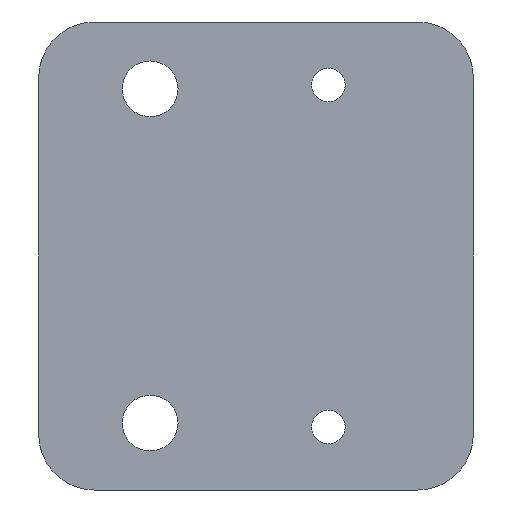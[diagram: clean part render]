
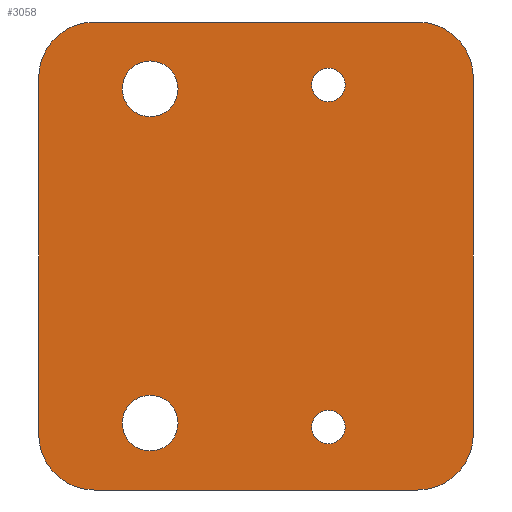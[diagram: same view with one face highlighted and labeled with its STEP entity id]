
A CAD part, front view. The second image highlights one B-rep face of the part: STEP entity #3058.
In plain terms, the highlighted planar face has unit normal (0, -1, 0).
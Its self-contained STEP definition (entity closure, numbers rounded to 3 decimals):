
#653=CARTESIAN_POINT('',(-30.,-8.,-15.));
#654=DIRECTION('',(0.,-1.,0.));
#655=DIRECTION('',(0.,0.,1.));
#656=AXIS2_PLACEMENT_3D('',#653,#654,#655);
#658=CARTESIAN_POINT('',(-30.,-8.,-15.));
#659=DIRECTION('',(0.,-1.,0.));
#660=DIRECTION('',(0.,0.,-1.));
#661=AXIS2_PLACEMENT_3D('',#658,#659,#660);
#663=CARTESIAN_POINT('',(-30.,-8.,15.));
#664=DIRECTION('',(0.,-1.,0.));
#665=DIRECTION('',(0.,0.,1.));
#666=AXIS2_PLACEMENT_3D('',#663,#664,#665);
#668=CARTESIAN_POINT('',(-30.,-8.,15.));
#669=DIRECTION('',(0.,-1.,0.));
#670=DIRECTION('',(0.,0.,-1.));
#671=AXIS2_PLACEMENT_3D('',#668,#669,#670);
#673=CARTESIAN_POINT('',(-14.,-8.,-15.35));
#674=DIRECTION('',(0.,-1.,0.));
#675=DIRECTION('',(0.,0.,1.));
#676=AXIS2_PLACEMENT_3D('',#673,#674,#675);
#678=CARTESIAN_POINT('',(-14.,-8.,-15.35));
#679=DIRECTION('',(0.,-1.,0.));
#680=DIRECTION('',(0.,0.,-1.));
#681=AXIS2_PLACEMENT_3D('',#678,#679,#680);
#683=CARTESIAN_POINT('',(-14.,-8.,15.35));
#684=DIRECTION('',(0.,-1.,0.));
#685=DIRECTION('',(0.,0.,1.));
#686=AXIS2_PLACEMENT_3D('',#683,#684,#685);
#688=CARTESIAN_POINT('',(-14.,-8.,15.35));
#689=DIRECTION('',(0.,-1.,0.));
#690=DIRECTION('',(0.,0.,-1.));
#691=AXIS2_PLACEMENT_3D('',#688,#689,#690);
#693=CARTESIAN_POINT('',(-6.,-8.,-16.));
#694=DIRECTION('',(0.,-1.,0.));
#695=DIRECTION('',(0.,0.,-1.));
#696=AXIS2_PLACEMENT_3D('',#693,#694,#695);
#698=DIRECTION('',(-1.,0.,0.));
#699=VECTOR('',#698,29.);
#700=CARTESIAN_POINT('',(-6.,-8.,-21.));
#701=LINE('',#700,#699);
#702=CARTESIAN_POINT('',(-35.,-8.,-16.));
#703=DIRECTION('',(0.,-1.,0.));
#704=DIRECTION('',(-1.,0.,0.));
#705=AXIS2_PLACEMENT_3D('',#702,#703,#704);
#707=DIRECTION('',(0.,0.,1.));
#708=VECTOR('',#707,32.);
#709=CARTESIAN_POINT('',(-40.,-8.,-16.));
#710=LINE('',#709,#708);
#711=CARTESIAN_POINT('',(-35.,-8.,16.));
#712=DIRECTION('',(0.,-1.,0.));
#713=DIRECTION('',(0.,0.,1.));
#714=AXIS2_PLACEMENT_3D('',#711,#712,#713);
#716=DIRECTION('',(1.,0.,0.));
#717=VECTOR('',#716,29.);
#718=CARTESIAN_POINT('',(-35.,-8.,21.));
#719=LINE('',#718,#717);
#720=CARTESIAN_POINT('',(-6.,-8.,16.));
#721=DIRECTION('',(0.,-1.,0.));
#722=DIRECTION('',(1.,0.,0.));
#723=AXIS2_PLACEMENT_3D('',#720,#721,#722);
#725=DIRECTION('',(0.,0.,-1.));
#726=VECTOR('',#725,32.);
#727=CARTESIAN_POINT('',(-1.,-8.,16.));
#728=LINE('',#727,#726);
#1989=CARTESIAN_POINT('',(-30.,-8.,-12.5));
#1990=CARTESIAN_POINT('',(-30.,-8.,-17.5));
#1991=VERTEX_POINT('',#1989);
#1992=VERTEX_POINT('',#1990);
#1993=CARTESIAN_POINT('',(-30.,-8.,17.5));
#1994=CARTESIAN_POINT('',(-30.,-8.,12.5));
#1995=VERTEX_POINT('',#1993);
#1996=VERTEX_POINT('',#1994);
#1997=CARTESIAN_POINT('',(-6.,-8.,-21.));
#1998=CARTESIAN_POINT('',(-1.,-8.,-16.));
#1999=VERTEX_POINT('',#1997);
#2000=VERTEX_POINT('',#1998);
#2005=CARTESIAN_POINT('',(-40.,-8.,-16.));
#2006=CARTESIAN_POINT('',(-35.,-8.,-21.));
#2007=VERTEX_POINT('',#2005);
#2008=VERTEX_POINT('',#2006);
#2013=CARTESIAN_POINT('',(-35.,-8.,21.));
#2014=CARTESIAN_POINT('',(-40.,-8.,16.));
#2015=VERTEX_POINT('',#2013);
#2016=VERTEX_POINT('',#2014);
#2021=CARTESIAN_POINT('',(-1.,-8.,16.));
#2022=CARTESIAN_POINT('',(-6.,-8.,21.));
#2023=VERTEX_POINT('',#2021);
#2024=VERTEX_POINT('',#2022);
#2029=CARTESIAN_POINT('',(-14.,-8.,-13.85));
#2030=CARTESIAN_POINT('',(-14.,-8.,-16.85));
#2031=VERTEX_POINT('',#2029);
#2032=VERTEX_POINT('',#2030);
#2033=CARTESIAN_POINT('',(-14.,-8.,16.85));
#2034=CARTESIAN_POINT('',(-14.,-8.,13.85));
#2035=VERTEX_POINT('',#2033);
#2036=VERTEX_POINT('',#2034);
#3013=CARTESIAN_POINT('',(0.,-8.,0.));
#3014=DIRECTION('',(0.,1.,0.));
#3015=DIRECTION('',(0.,0.,1.));
#3016=AXIS2_PLACEMENT_3D('',#3013,#3014,#3015);
#3017=PLANE('',#3016);
#3019=ORIENTED_EDGE('',*,*,#3018,.F.);
#3021=ORIENTED_EDGE('',*,*,#3020,.T.);
#3023=ORIENTED_EDGE('',*,*,#3022,.F.);
#3025=ORIENTED_EDGE('',*,*,#3024,.T.);
#3027=ORIENTED_EDGE('',*,*,#3026,.F.);
#3029=ORIENTED_EDGE('',*,*,#3028,.T.);
#3031=ORIENTED_EDGE('',*,*,#3030,.F.);
#3033=ORIENTED_EDGE('',*,*,#3032,.T.);
#3034=EDGE_LOOP('',(#3019,#3021,#3023,#3025,#3027,#3029,#3031,#3033));
#3035=FACE_OUTER_BOUND('',#3034,.F.);
#3037=ORIENTED_EDGE('',*,*,#3036,.T.);
#3039=ORIENTED_EDGE('',*,*,#3038,.T.);
#3040=EDGE_LOOP('',(#3037,#3039));
#3041=FACE_BOUND('',#3040,.F.);
#3043=ORIENTED_EDGE('',*,*,#3042,.T.);
#3045=ORIENTED_EDGE('',*,*,#3044,.T.);
#3046=EDGE_LOOP('',(#3043,#3045));
#3047=FACE_BOUND('',#3046,.F.);
#3049=ORIENTED_EDGE('',*,*,#3048,.T.);
#3051=ORIENTED_EDGE('',*,*,#3050,.T.);
#3052=EDGE_LOOP('',(#3049,#3051));
#3053=FACE_BOUND('',#3052,.F.);
#3054=ORIENTED_EDGE('',*,*,#2993,.T.);
#3055=ORIENTED_EDGE('',*,*,#3007,.T.);
#3056=EDGE_LOOP('',(#3054,#3055));
#3057=FACE_BOUND('',#3056,.F.);
#3058=ADVANCED_FACE('',(#3035,#3041,#3047,#3053,#3057),#3017,.F.);
#657=CIRCLE('',#656,2.5);
#662=CIRCLE('',#661,2.5);
#667=CIRCLE('',#666,2.5);
#672=CIRCLE('',#671,2.5);
#677=CIRCLE('',#676,1.5);
#682=CIRCLE('',#681,1.5);
#687=CIRCLE('',#686,1.5);
#692=CIRCLE('',#691,1.5);
#697=CIRCLE('',#696,5.);
#706=CIRCLE('',#705,5.);
#715=CIRCLE('',#714,5.);
#724=CIRCLE('',#723,5.);
#2993=EDGE_CURVE('',#1991,#1992,#657,.T.);
#3007=EDGE_CURVE('',#1992,#1991,#662,.T.);
#3018=EDGE_CURVE('',#1999,#2000,#697,.T.);
#3020=EDGE_CURVE('',#1999,#2008,#701,.T.);
#3022=EDGE_CURVE('',#2007,#2008,#706,.T.);
#3024=EDGE_CURVE('',#2007,#2016,#710,.T.);
#3026=EDGE_CURVE('',#2015,#2016,#715,.T.);
#3028=EDGE_CURVE('',#2015,#2024,#719,.T.);
#3030=EDGE_CURVE('',#2023,#2024,#724,.T.);
#3032=EDGE_CURVE('',#2023,#2000,#728,.T.);
#3036=EDGE_CURVE('',#1995,#1996,#667,.T.);
#3038=EDGE_CURVE('',#1996,#1995,#672,.T.);
#3042=EDGE_CURVE('',#2031,#2032,#677,.T.);
#3044=EDGE_CURVE('',#2032,#2031,#682,.T.);
#3048=EDGE_CURVE('',#2035,#2036,#687,.T.);
#3050=EDGE_CURVE('',#2036,#2035,#692,.T.);
